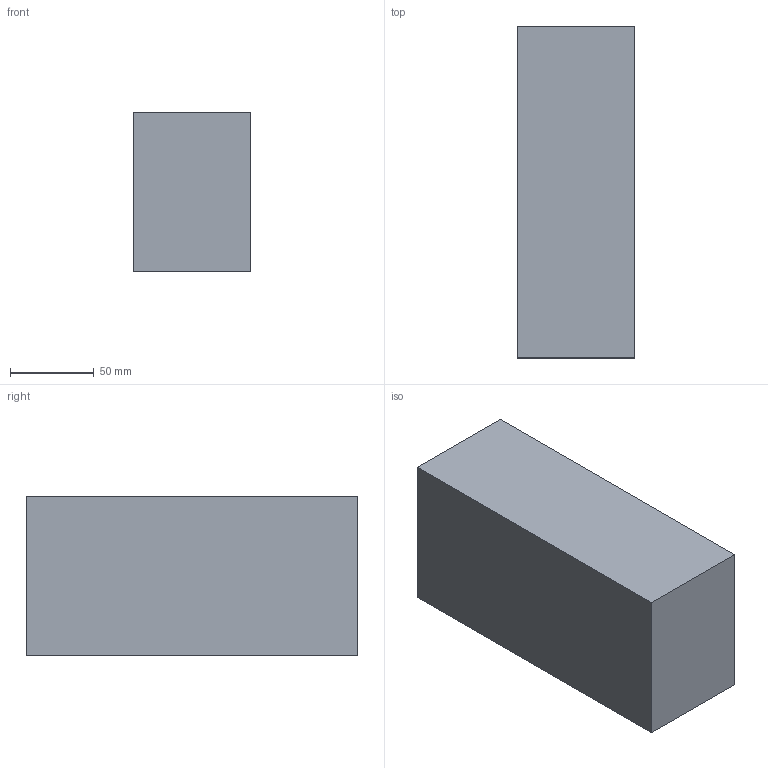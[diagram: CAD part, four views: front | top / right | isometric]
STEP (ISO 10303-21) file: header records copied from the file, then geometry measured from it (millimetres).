
FILE_DESCRIPTION(/* description */ ('STEP AP242','CAx-IF Rec.Pracs.---Representation and Presentation of Product Manufacturing Information (PMI)---4.0---2014-10-13','CAx-IF Rec.Pracs.---3D Tessellated Geometry---0.4---2014-09-14','2;1'),/* implementation_level */ '2;1');
FILE_NAME(/* name */ 'Assembly 1 - Part 1 (4)',/* time_stamp */ '2025-05-18T07:24:53Z',/* author */ (''),/* organization */ (''),/* preprocessor_version */ 'ST-DEVELOPER v20',/* originating_system */ 'ONSHAPE BY PTC INC, 1.198',/* authorisation */ ' ');
FILE_SCHEMA (('AP242_MANAGED_MODEL_BASED_3D_ENGINEERING_MIM_LF { 1 0 10303 442 1 1 4 }'));
Length unit declared in the file: metre
Products named in the file (1): Part 1
Bounding box: 70.1 x 197.87 x 95 mm (x, y, z)
Volume: 1317708.3 mm3; surface area: 78654.6 mm2
Topology: 1 solids, 1 shells, 6 faces, 12 edges, 8 vertices
Faces by surface type: plane 6
Entity records: 178 total; most frequent: CARTESIAN_POINT 27, DIRECTION 26, ORIENTED_EDGE 24, EDGE_CURVE 12, LINE 12, VECTOR 12, VERTEX_POINT 8, AXIS2_PLACEMENT_3D 7
